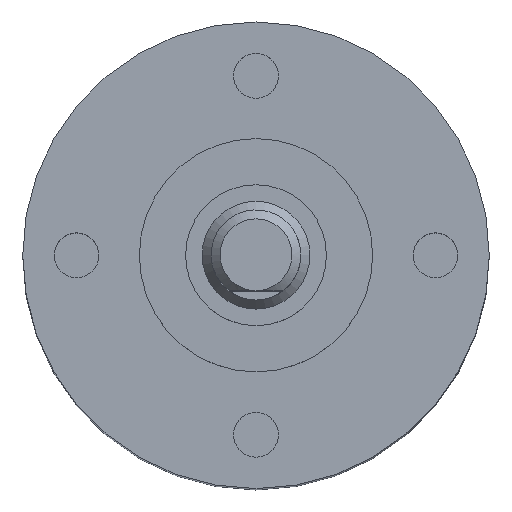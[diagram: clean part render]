
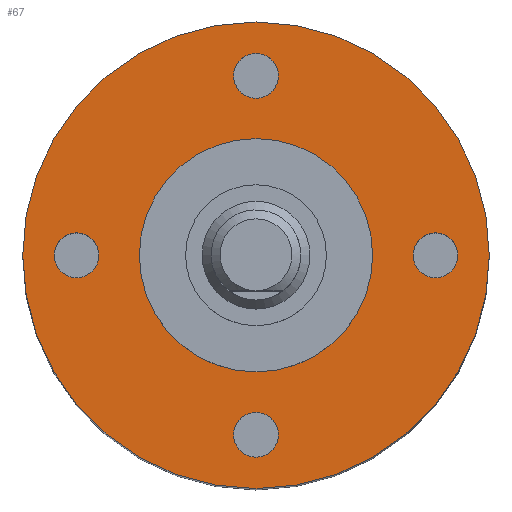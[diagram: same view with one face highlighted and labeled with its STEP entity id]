
A CAD part, top view. The second image highlights one B-rep face of the part: STEP entity #67.
In plain terms, the highlighted planar face has unit normal (0, 0, 1).
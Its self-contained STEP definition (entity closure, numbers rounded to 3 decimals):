
#34=PLANE('',#500);
#67=ADVANCED_FACE('',(#124,#125,#126,#127,#128,#129),#34,.T.);
#124=FACE_BOUND('',#179,.T.);
#125=FACE_BOUND('',#180,.T.);
#126=FACE_BOUND('',#181,.T.);
#127=FACE_BOUND('',#182,.T.);
#128=FACE_BOUND('',#183,.T.);
#129=FACE_BOUND('',#184,.T.);
#179=EDGE_LOOP('',(#248));
#180=EDGE_LOOP('',(#249));
#181=EDGE_LOOP('',(#250));
#182=EDGE_LOOP('',(#251));
#183=EDGE_LOOP('',(#252));
#184=EDGE_LOOP('',(#253));
#248=ORIENTED_EDGE('',*,*,#354,.T.);
#249=ORIENTED_EDGE('',*,*,#355,.T.);
#250=ORIENTED_EDGE('',*,*,#356,.T.);
#251=ORIENTED_EDGE('',*,*,#357,.T.);
#252=ORIENTED_EDGE('',*,*,#358,.F.);
#253=ORIENTED_EDGE('',*,*,#352,.T.);
#316=VERTEX_POINT('',#744);
#318=VERTEX_POINT('',#750);
#319=VERTEX_POINT('',#752);
#320=VERTEX_POINT('',#754);
#321=VERTEX_POINT('',#756);
#322=VERTEX_POINT('',#758);
#352=EDGE_CURVE('',#316,#316,#415,.T.);
#354=EDGE_CURVE('',#318,#318,#417,.T.);
#355=EDGE_CURVE('',#319,#319,#418,.T.);
#356=EDGE_CURVE('',#320,#320,#419,.T.);
#357=EDGE_CURVE('',#321,#321,#420,.T.);
#358=EDGE_CURVE('',#322,#322,#421,.T.);
#415=CIRCLE('',#491,13.);
#417=CIRCLE('',#495,1.25);
#418=CIRCLE('',#496,1.25);
#419=CIRCLE('',#497,1.25);
#420=CIRCLE('',#498,1.25);
#421=CIRCLE('',#499,6.5);
#491=AXIS2_PLACEMENT_3D('',#743,#588,#589);
#495=AXIS2_PLACEMENT_3D('',#749,#596,#597);
#496=AXIS2_PLACEMENT_3D('',#751,#598,#599);
#497=AXIS2_PLACEMENT_3D('',#753,#600,#601);
#498=AXIS2_PLACEMENT_3D('',#755,#602,#603);
#499=AXIS2_PLACEMENT_3D('',#757,#604,#605);
#500=AXIS2_PLACEMENT_3D('',#759,#606,#607);
#588=DIRECTION('',(0.,0.,1.));
#589=DIRECTION('',(1.,0.,0.));
#596=DIRECTION('',(0.,0.,-1.));
#597=DIRECTION('',(0.,-1.,0.));
#598=DIRECTION('',(0.,0.,-1.));
#599=DIRECTION('',(1.,0.,0.));
#600=DIRECTION('',(0.,0.,-1.));
#601=DIRECTION('',(0.,1.,0.));
#602=DIRECTION('',(0.,0.,-1.));
#603=DIRECTION('',(-1.,0.,0.));
#604=DIRECTION('',(0.,0.,1.));
#605=DIRECTION('',(1.,0.,0.));
#606=DIRECTION('',(0.,0.,1.));
#607=DIRECTION('',(1.,0.,0.));
#743=CARTESIAN_POINT('',(0.,0.,44.4));
#744=CARTESIAN_POINT('',(13.,0.,44.4));
#749=CARTESIAN_POINT('',(-10.,0.,44.4));
#750=CARTESIAN_POINT('',(-10.,-1.25,44.4));
#751=CARTESIAN_POINT('',(0.,-10.,44.4));
#752=CARTESIAN_POINT('',(1.25,-10.,44.4));
#753=CARTESIAN_POINT('',(10.,0.,44.4));
#754=CARTESIAN_POINT('',(10.,1.25,44.4));
#755=CARTESIAN_POINT('',(0.,10.,44.4));
#756=CARTESIAN_POINT('',(-1.25,10.,44.4));
#757=CARTESIAN_POINT('',(0.,0.,44.4));
#758=CARTESIAN_POINT('',(6.5,0.,44.4));
#759=CARTESIAN_POINT('',(0.,0.,44.4));
